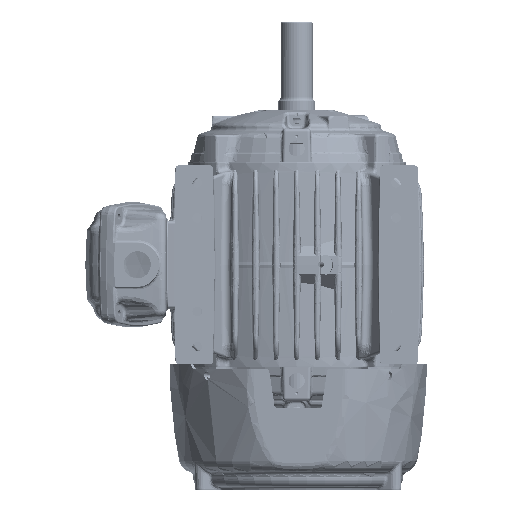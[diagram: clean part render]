
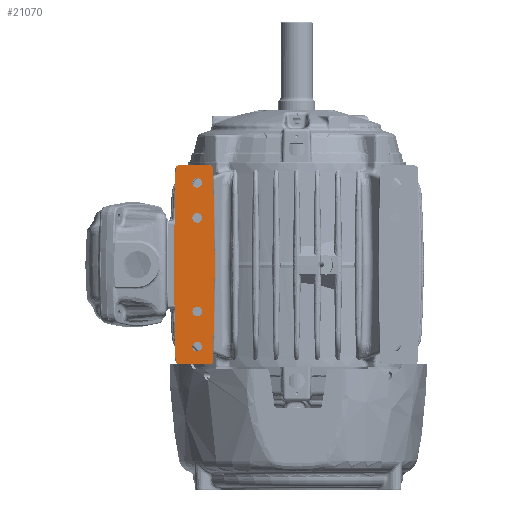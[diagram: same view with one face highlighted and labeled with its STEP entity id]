
A CAD part, front view. The second image highlights one B-rep face of the part: STEP entity #21070.
In plain terms, the highlighted planar face has unit normal (0, -1, 0).
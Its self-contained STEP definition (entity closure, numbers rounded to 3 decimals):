
#45=CARTESIAN_POINT('',(-3.542,-5.233,-2.389));
#46=CARTESIAN_POINT('',(-3.545,-5.233,-2.584));
#47=CARTESIAN_POINT('',(-3.552,-5.233,-2.973));
#48=CARTESIAN_POINT('',(-3.563,-5.232,-3.551));
#49=CARTESIAN_POINT('',(-3.571,-5.233,-3.933));
#50=CARTESIAN_POINT('',(-3.576,-5.233,-4.123));
#52=DIRECTION('',(-1.,0.,0.));
#53=VECTOR('',#52,1.346);
#54=CARTESIAN_POINT('',(-3.702,-5.233,-4.246));
#55=LINE('',#54,#53);
#56=CARTESIAN_POINT('',(-5.208,-5.233,-2.389));
#57=CARTESIAN_POINT('',(-5.198,-5.233,-2.967));
#58=CARTESIAN_POINT('',(-5.187,-5.233,-3.545));
#59=CARTESIAN_POINT('',(-5.174,-5.233,-4.123));
#61=CARTESIAN_POINT('',(-5.208,-5.233,2.389));
#62=CARTESIAN_POINT('',(-5.198,-5.233,2.967));
#63=CARTESIAN_POINT('',(-5.187,-5.233,3.545));
#64=CARTESIAN_POINT('',(-5.174,-5.233,4.123));
#66=DIRECTION('',(1.,0.,0.));
#67=VECTOR('',#66,1.346);
#68=CARTESIAN_POINT('',(-5.048,-5.233,4.246));
#69=LINE('',#68,#67);
#70=CARTESIAN_POINT('',(-3.542,-5.233,2.389));
#71=CARTESIAN_POINT('',(-3.545,-5.233,2.584));
#72=CARTESIAN_POINT('',(-3.552,-5.233,2.973));
#73=CARTESIAN_POINT('',(-3.563,-5.232,3.551));
#74=CARTESIAN_POINT('',(-3.571,-5.233,3.933));
#75=CARTESIAN_POINT('',(-3.576,-5.233,4.123));
#77=CARTESIAN_POINT('',(-4.25,-5.233,3.505));
#78=DIRECTION('',(0.,-1.,0.));
#79=DIRECTION('',(-1.,0.,0.));
#80=AXIS2_PLACEMENT_3D('',#77,#78,#79);
#82=CARTESIAN_POINT('',(-4.25,-5.233,3.505));
#83=DIRECTION('',(0.,-1.,0.));
#84=DIRECTION('',(1.,0.,0.));
#85=AXIS2_PLACEMENT_3D('',#82,#83,#84);
#97=CARTESIAN_POINT('',(-4.25,-5.233,-3.495));
#98=DIRECTION('',(0.,-1.,0.));
#99=DIRECTION('',(-1.,0.,0.));
#100=AXIS2_PLACEMENT_3D('',#97,#98,#99);
#102=CARTESIAN_POINT('',(-4.25,-5.233,-3.495));
#103=DIRECTION('',(0.,-1.,0.));
#104=DIRECTION('',(1.,0.,0.));
#105=AXIS2_PLACEMENT_3D('',#102,#103,#104);
#117=CARTESIAN_POINT('',(-4.25,-5.233,2.005));
#118=DIRECTION('',(0.,-1.,0.));
#119=DIRECTION('',(-1.,0.,0.));
#120=AXIS2_PLACEMENT_3D('',#117,#118,#119);
#122=CARTESIAN_POINT('',(-4.25,-5.233,2.005));
#123=DIRECTION('',(0.,-1.,0.));
#124=DIRECTION('',(1.,0.,0.));
#125=AXIS2_PLACEMENT_3D('',#122,#123,#124);
#137=CARTESIAN_POINT('',(-4.25,-5.233,-1.995));
#138=DIRECTION('',(0.,-1.,0.));
#139=DIRECTION('',(-1.,0.,0.));
#140=AXIS2_PLACEMENT_3D('',#137,#138,#139);
#142=CARTESIAN_POINT('',(-4.25,-5.233,-1.995));
#143=DIRECTION('',(0.,-1.,0.));
#144=DIRECTION('',(1.,0.,0.));
#145=AXIS2_PLACEMENT_3D('',#142,#143,#144);
#11647=CARTESIAN_POINT('',(-3.702,-5.233,4.12));
#11648=DIRECTION('',(0.,1.,0.));
#11649=DIRECTION('',(0.,0.,1.));
#11650=AXIS2_PLACEMENT_3D('',#11647,#11648,#11649);
#11672=CARTESIAN_POINT('',(-5.048,-5.233,4.12));
#11673=DIRECTION('',(0.,1.,0.));
#11674=DIRECTION('',(-1.,0.,0.022));
#11675=AXIS2_PLACEMENT_3D('',#11672,#11673,#11674);
#11691=DIRECTION('',(-0.017,0.,-1.));
#11692=VECTOR('',#11691,2.39);
#11693=CARTESIAN_POINT('',(-5.208,-5.233,2.389));
#11694=LINE('',#11693,#11692);
#11703=DIRECTION('',(-0.017,0.,1.));
#11704=VECTOR('',#11703,2.39);
#11705=CARTESIAN_POINT('',(-5.208,-5.233,-2.389));
#11706=LINE('',#11705,#11704);
#11720=CARTESIAN_POINT('',(-5.048,-5.233,-4.12));
#11721=DIRECTION('',(0.,1.,0.));
#11722=DIRECTION('',(0.001,0.,-1.));
#11723=AXIS2_PLACEMENT_3D('',#11720,#11721,#11722);
#11745=CARTESIAN_POINT('',(-3.702,-5.233,-4.12));
#11746=DIRECTION('',(0.,1.,0.));
#11747=DIRECTION('',(1.,0.,-0.021));
#11748=AXIS2_PLACEMENT_3D('',#11745,#11746,#11747);
#11765=DIRECTION('',(-0.017,0.,-1.));
#11766=VECTOR('',#11765,2.39);
#11767=CARTESIAN_POINT('',(-3.5,-5.233,0.));
#11768=LINE('',#11767,#11766);
#11773=DIRECTION('',(-0.017,0.,1.));
#11774=VECTOR('',#11773,2.39);
#11775=CARTESIAN_POINT('',(-3.5,-5.233,0.));
#11776=LINE('',#11775,#11774);
#19481=CARTESIAN_POINT('',(-3.5,-5.233,0.));
#19482=CARTESIAN_POINT('',(-3.542,-5.233,2.389));
#19483=VERTEX_POINT('',#19481);
#19484=VERTEX_POINT('',#19482);
#19485=CARTESIAN_POINT('',(-5.208,-5.233,2.389));
#19486=CARTESIAN_POINT('',(-5.25,-5.233,0.));
#19487=VERTEX_POINT('',#19485);
#19488=VERTEX_POINT('',#19486);
#19493=CARTESIAN_POINT('',(-3.542,-5.233,-2.389));
#19494=VERTEX_POINT('',#19493);
#19495=CARTESIAN_POINT('',(-5.208,-5.233,-2.389));
#19496=VERTEX_POINT('',#19495);
#19503=CARTESIAN_POINT('',(-4.455,-5.233,3.505));
#19504=CARTESIAN_POINT('',(-4.045,-5.233,3.505));
#19505=VERTEX_POINT('',#19503);
#19506=VERTEX_POINT('',#19504);
#19515=CARTESIAN_POINT('',(-4.455,-5.233,-3.495));
#19516=CARTESIAN_POINT('',(-4.045,-5.233,-3.495));
#19517=VERTEX_POINT('',#19515);
#19518=VERTEX_POINT('',#19516);
#20309=VERTEX_POINT('',#75);
#20310=CARTESIAN_POINT('',(-5.048,-5.233,
4.246));
#20311=CARTESIAN_POINT('',(-3.702,-5.233,4.246));
#20312=VERTEX_POINT('',#20310);
#20313=VERTEX_POINT('',#20311);
#20314=VERTEX_POINT('',#64);
#20321=VERTEX_POINT('',#50);
#20322=CARTESIAN_POINT('',(-3.702,-5.233,-4.246));
#20323=CARTESIAN_POINT('',(-5.048,-5.233,
-4.246));
#20324=VERTEX_POINT('',#20322);
#20325=VERTEX_POINT('',#20323);
#20326=VERTEX_POINT('',#59);
#20908=CARTESIAN_POINT('',(-4.455,-5.233,2.005));
#20909=CARTESIAN_POINT('',(-4.045,-5.233,2.005));
#20910=VERTEX_POINT('',#20908);
#20911=VERTEX_POINT('',#20909);
#20920=CARTESIAN_POINT('',(-4.455,-5.233,-1.995));
#20921=CARTESIAN_POINT('',(-4.045,-5.233,-1.995));
#20922=VERTEX_POINT('',#20920);
#20923=VERTEX_POINT('',#20921);
#21011=CARTESIAN_POINT('',(9.5,-5.233,5.362));
#21012=DIRECTION('',(0.,1.,0.));
#21013=DIRECTION('',(-1.,0.,0.));
#21014=AXIS2_PLACEMENT_3D('',#21011,#21012,#21013);
#21015=PLANE('',#21014);
#21017=ORIENTED_EDGE('',*,*,#21016,.F.);
#21019=ORIENTED_EDGE('',*,*,#21018,.T.);
#21021=ORIENTED_EDGE('',*,*,#21020,.T.);
#21023=ORIENTED_EDGE('',*,*,#21022,.T.);
#21025=ORIENTED_EDGE('',*,*,#21024,.T.);
#21027=ORIENTED_EDGE('',*,*,#21026,.T.);
#21029=ORIENTED_EDGE('',*,*,#21028,.F.);
#21031=ORIENTED_EDGE('',*,*,#21030,.T.);
#21033=ORIENTED_EDGE('',*,*,#21032,.F.);
#21035=ORIENTED_EDGE('',*,*,#21034,.T.);
#21037=ORIENTED_EDGE('',*,*,#21036,.T.);
#21039=ORIENTED_EDGE('',*,*,#21038,.T.);
#21041=ORIENTED_EDGE('',*,*,#21040,.T.);
#21043=ORIENTED_EDGE('',*,*,#21042,.F.);
#21044=EDGE_LOOP('',(#21017,#21019,#21021,#21023,#21025,#21027,#21029,#21031,
#21033,#21035,#21037,#21039,#21041,#21043));
#21045=FACE_OUTER_BOUND('',#21044,.F.);
#21047=ORIENTED_EDGE('',*,*,#21046,.T.);
#21049=ORIENTED_EDGE('',*,*,#21048,.T.);
#21050=EDGE_LOOP('',(#21047,#21049));
#21051=FACE_BOUND('',#21050,.F.);
#21053=ORIENTED_EDGE('',*,*,#21052,.T.);
#21055=ORIENTED_EDGE('',*,*,#21054,.T.);
#21056=EDGE_LOOP('',(#21053,#21055));
#21057=FACE_BOUND('',#21056,.F.);
#21059=ORIENTED_EDGE('',*,*,#21058,.T.);
#21061=ORIENTED_EDGE('',*,*,#21060,.T.);
#21062=EDGE_LOOP('',(#21059,#21061));
#21063=FACE_BOUND('',#21062,.F.);
#21065=ORIENTED_EDGE('',*,*,#21064,.T.);
#21067=ORIENTED_EDGE('',*,*,#21066,.T.);
#21068=EDGE_LOOP('',(#21065,#21067));
#21069=FACE_BOUND('',#21068,.F.);
#21070=ADVANCED_FACE('',(#21045,#21051,#21057,#21063,#21069),#21015,.F.);
#51=B_SPLINE_CURVE_WITH_KNOTS('',3,(#45,#46,#47,#48,#49,#50),.UNSPECIFIED.,.F.,
.F.,(4,1,1,4),(0.,0.333,0.667,1.),.UNSPECIFIED.);
#60=B_SPLINE_CURVE_WITH_KNOTS('',3,(#56,#57,#58,#59),.UNSPECIFIED.,.F.,.F.,(4,
4),(0.,1.),.UNSPECIFIED.);
#65=B_SPLINE_CURVE_WITH_KNOTS('',3,(#61,#62,#63,#64),.UNSPECIFIED.,.F.,.F.,(4,
4),(0.,1.),.UNSPECIFIED.);
#76=B_SPLINE_CURVE_WITH_KNOTS('',3,(#70,#71,#72,#73,#74,#75),.UNSPECIFIED.,.F.,
.F.,(4,1,1,4),(0.,0.333,0.667,1.),.UNSPECIFIED.);
#81=CIRCLE('',#80,0.205);
#86=CIRCLE('',#85,0.205);
#101=CIRCLE('',#100,0.205);
#106=CIRCLE('',#105,0.205);
#121=CIRCLE('',#120,0.205);
#126=CIRCLE('',#125,0.205);
#141=CIRCLE('',#140,0.205);
#146=CIRCLE('',#145,0.205);
#11651=CIRCLE('',#11650,0.126);
#11676=CIRCLE('',#11675,0.126);
#11724=CIRCLE('',#11723,0.126);
#11749=CIRCLE('',#11748,0.126);
#21016=EDGE_CURVE('',#19483,#19484,#11776,.T.);
#21018=EDGE_CURVE('',#19483,#19494,#11768,.T.);
#21020=EDGE_CURVE('',#19494,#20321,#51,.T.);
#21022=EDGE_CURVE('',#20321,#20324,#11749,.T.);
#21024=EDGE_CURVE('',#20324,#20325,#55,.T.);
#21026=EDGE_CURVE('',#20325,#20326,#11724,.T.);
#21028=EDGE_CURVE('',#19496,#20326,#60,.T.);
#21030=EDGE_CURVE('',#19496,#19488,#11706,.T.);
#21032=EDGE_CURVE('',#19487,#19488,#11694,.T.);
#21034=EDGE_CURVE('',#19487,#20314,#65,.T.);
#21036=EDGE_CURVE('',#20314,#20312,#11676,.T.);
#21038=EDGE_CURVE('',#20312,#20313,#69,.T.);
#21040=EDGE_CURVE('',#20313,#20309,#11651,.T.);
#21042=EDGE_CURVE('',#19484,#20309,#76,.T.);
#21046=EDGE_CURVE('',#19505,#19506,#81,.T.);
#21048=EDGE_CURVE('',#19506,#19505,#86,.T.);
#21052=EDGE_CURVE('',#19517,#19518,#101,.T.);
#21054=EDGE_CURVE('',#19518,#19517,#106,.T.);
#21058=EDGE_CURVE('',#20910,#20911,#121,.T.);
#21060=EDGE_CURVE('',#20911,#20910,#126,.T.);
#21064=EDGE_CURVE('',#20922,#20923,#141,.T.);
#21066=EDGE_CURVE('',#20923,#20922,#146,.T.);
